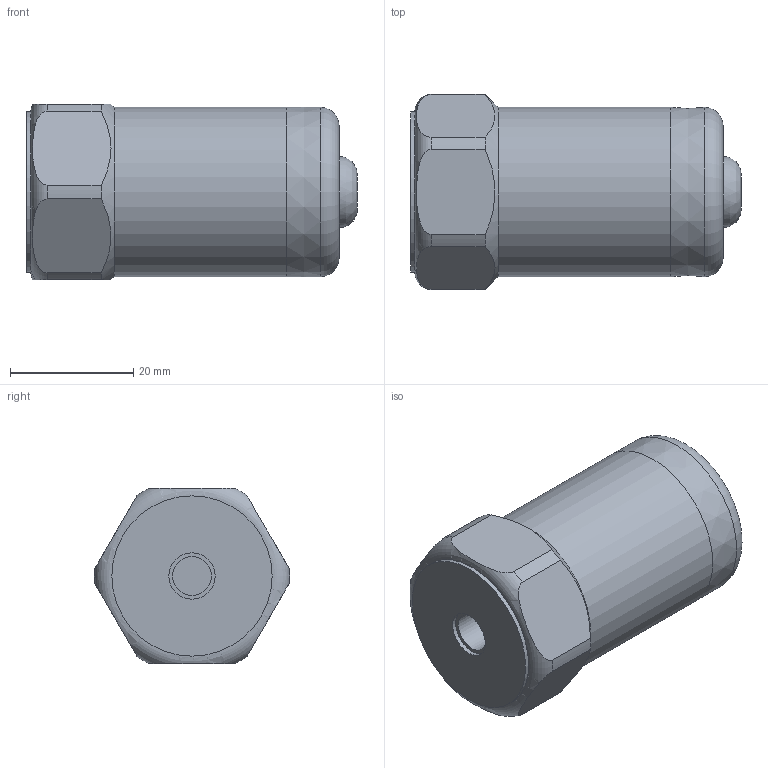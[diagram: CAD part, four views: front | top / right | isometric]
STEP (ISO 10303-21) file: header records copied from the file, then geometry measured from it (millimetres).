
FILE_DESCRIPTION(/* description */ (''),/* implementation_level */ '2;1');
FILE_NAME(/* name */ 'Z:\Engineering\Drawings\3D Library\Assemblies\Website\420 Velocity\HS-420XXX0201.stp',/* time_stamp */ '2023-05-03T13:34:29+01:00',/* author */ ('Ricardo.Peneda'),/* organization */ (''),/* preprocessor_version */ 'ST-DEVELOPER v18.1',/* originating_system */ 'Autodesk Inventor 2021',/* authorisation */ '');
FILE_SCHEMA (('AUTOMOTIVE_DESIGN { 1 0 10303 214 3 1 1 }'));
Length unit declared in the file: inch
Products named in the file (1): HS-420XXX0201_Shrinkwrap_1
Bounding box: 53.67 x 31.69 x 28.5 mm (x, y, z)
Volume: 14419.7 mm3; surface area: 10059 mm2
Topology: 2 solids, 2 shells, 40 faces, 113 edges, 78 vertices
Faces by surface type: cone 15, cylinder 11, plane 11, torus 2, bspline 1
Full cylindrical faces by diameter (mm): 6.3 x1, 7.5 x1, 25.3 x1, 26 x1, 27.5 x1
Entity records: 1567 total; most frequent: CARTESIAN_POINT 404, DIRECTION 246, ORIENTED_EDGE 226, EDGE_CURVE 113, AXIS2_PLACEMENT_3D 107, VERTEX_POINT 78, CIRCLE 67, EDGE_LOOP 43
